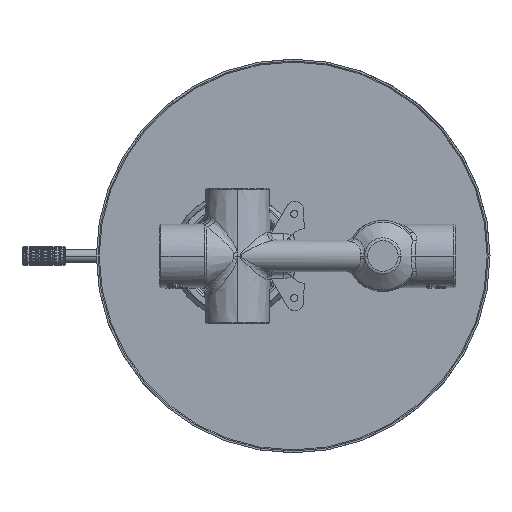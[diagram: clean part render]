
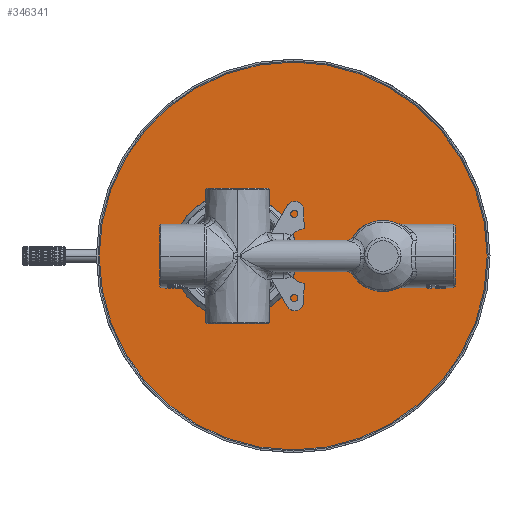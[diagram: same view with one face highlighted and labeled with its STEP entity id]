
A CAD part, front view. The second image highlights one B-rep face of the part: STEP entity #346341.
In plain terms, the highlighted planar face has unit normal (0, -1, 0).
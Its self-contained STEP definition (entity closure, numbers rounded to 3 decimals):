
#345766=CARTESIAN_POINT('',(0.,9.2,0.));
#345767=DIRECTION('',(0.,-1.,0.));
#345768=DIRECTION('',(-1.,0.,0.));
#345769=AXIS2_PLACEMENT_3D('',#345766,#345767,#345768);
#345781=CARTESIAN_POINT('',(0.,9.2,0.));
#345782=DIRECTION('',(0.,1.,0.));
#345783=DIRECTION('',(-1.,0.,0.));
#345784=AXIS2_PLACEMENT_3D('',#345781,#345782,#345783);
#345786=CARTESIAN_POINT('',(0.,9.2,0.));
#345787=DIRECTION('',(0.,1.,0.));
#345788=DIRECTION('',(1.,0.,0.));
#345789=AXIS2_PLACEMENT_3D('',#345786,#345787,#345788);
#345791=CARTESIAN_POINT('',(27.,9.2,0.));
#345792=DIRECTION('',(0.,-1.,0.));
#345793=DIRECTION('',(-1.,0.,0.));
#345794=AXIS2_PLACEMENT_3D('',#345791,#345792,#345793);
#345796=CARTESIAN_POINT('',(27.,9.2,0.));
#345797=DIRECTION('',(0.,-1.,0.));
#345798=DIRECTION('',(1.,0.,0.));
#345799=AXIS2_PLACEMENT_3D('',#345796,#345797,#345798);
#345801=CARTESIAN_POINT('',(-41.,9.2,0.));
#345802=DIRECTION('',(0.,-1.,0.));
#345803=DIRECTION('',(1.,0.,0.));
#345804=AXIS2_PLACEMENT_3D('',#345801,#345802,#345803);
#345806=CARTESIAN_POINT('',(-41.,9.2,0.));
#345807=DIRECTION('',(0.,-1.,0.));
#345808=DIRECTION('',(-0.999,0.,0.046));
#345809=AXIS2_PLACEMENT_3D('',#345806,#345807,#345808);
#345811=CARTESIAN_POINT('',(-41.,9.2,0.));
#345812=DIRECTION('',(0.,-1.,0.));
#345813=DIRECTION('',(-1.,0.,0.));
#345814=AXIS2_PLACEMENT_3D('',#345811,#345812,#345813);
#345816=CARTESIAN_POINT('',(-41.,9.2,0.));
#345817=DIRECTION('',(0.,-1.,0.));
#345818=DIRECTION('',(0.999,0.,-0.046));
#345819=AXIS2_PLACEMENT_3D('',#345816,#345817,#345818);
#345821=CARTESIAN_POINT('',(0.,9.2,0.));
#345822=DIRECTION('',(0.,-1.,0.));
#345823=DIRECTION('',(1.,0.,0.));
#345824=AXIS2_PLACEMENT_3D('',#345821,#345822,#345823);
#346094=CARTESIAN_POINT('',(49.577,9.2,0.));
#346095=VERTEX_POINT('',#346094);
#346096=CARTESIAN_POINT('',(4.423,9.2,0.));
#346097=VERTEX_POINT('',#346096);
#346100=CARTESIAN_POINT('',(-88.7,9.2,0.));
#346101=CARTESIAN_POINT('',(88.699,9.2,0.39));
#346102=VERTEX_POINT('',#346100);
#346103=VERTEX_POINT('',#346101);
#346104=CARTESIAN_POINT('',(88.7,9.2,0.));
#346105=VERTEX_POINT('',#346104);
#346106=CARTESIAN_POINT('',(-88.699,9.2,-0.39));
#346107=VERTEX_POINT('',#346106);
#346108=CARTESIAN_POINT('',(-29.1,9.2,0.));
#346109=CARTESIAN_POINT('',(-52.888,9.2,0.548));
#346110=VERTEX_POINT('',#346108);
#346111=VERTEX_POINT('',#346109);
#346112=CARTESIAN_POINT('',(-52.9,9.2,0.));
#346113=VERTEX_POINT('',#346112);
#346114=CARTESIAN_POINT('',(-29.112,9.2,-0.548));
#346115=VERTEX_POINT('',#346114);
#346312=CARTESIAN_POINT('',(0.,9.2,0.));
#346313=DIRECTION('',(0.,1.,0.));
#346314=DIRECTION('',(1.,0.,0.));
#346315=AXIS2_PLACEMENT_3D('',#346312,#346313,#346314);
#346316=PLANE('',#346315);
#346318=ORIENTED_EDGE('',*,*,#346317,.T.);
#346320=ORIENTED_EDGE('',*,*,#346319,.F.);
#346321=ORIENTED_EDGE('',*,*,#346302,.T.);
#346322=ORIENTED_EDGE('',*,*,#346300,.F.);
#346323=EDGE_LOOP('',(#346318,#346320,#346321,#346322));
#346324=FACE_OUTER_BOUND('',#346323,.F.);
#346326=ORIENTED_EDGE('',*,*,#346325,.T.);
#346328=ORIENTED_EDGE('',*,*,#346327,.T.);
#346329=EDGE_LOOP('',(#346326,#346328));
#346330=FACE_BOUND('',#346329,.F.);
#346332=ORIENTED_EDGE('',*,*,#346331,.T.);
#346334=ORIENTED_EDGE('',*,*,#346333,.T.);
#346336=ORIENTED_EDGE('',*,*,#346335,.T.);
#346338=ORIENTED_EDGE('',*,*,#346337,.T.);
#346339=EDGE_LOOP('',(#346332,#346334,#346336,#346338));
#346340=FACE_BOUND('',#346339,.F.);
#345770=CIRCLE('',#345769,88.7);
#345785=CIRCLE('',#345784,88.7);
#345790=CIRCLE('',#345789,88.7);
#345795=CIRCLE('',#345794,22.577);
#345800=CIRCLE('',#345799,22.577);
#345805=CIRCLE('',#345804,11.9);
#345810=CIRCLE('',#345809,11.9);
#345815=CIRCLE('',#345814,11.9);
#345820=CIRCLE('',#345819,11.9);
#345825=CIRCLE('',#345824,88.7);
#346300=EDGE_CURVE('',#346102,#346107,#345770,.T.);
#346302=EDGE_CURVE('',#346105,#346107,#345790,.T.);
#346317=EDGE_CURVE('',#346102,#346103,#345785,.T.);
#346319=EDGE_CURVE('',#346105,#346103,#345825,.T.);
#346325=EDGE_CURVE('',#346097,#346095,#345795,.T.);
#346327=EDGE_CURVE('',#346095,#346097,#345800,.T.);
#346331=EDGE_CURVE('',#346110,#346111,#345805,.T.);
#346333=EDGE_CURVE('',#346111,#346113,#345810,.T.);
#346335=EDGE_CURVE('',#346113,#346115,#345815,.T.);
#346337=EDGE_CURVE('',#346115,#346110,#345820,.T.);
#346341=ADVANCED_FACE('',(#346324,#346330,#346340),#346316,.F.);
